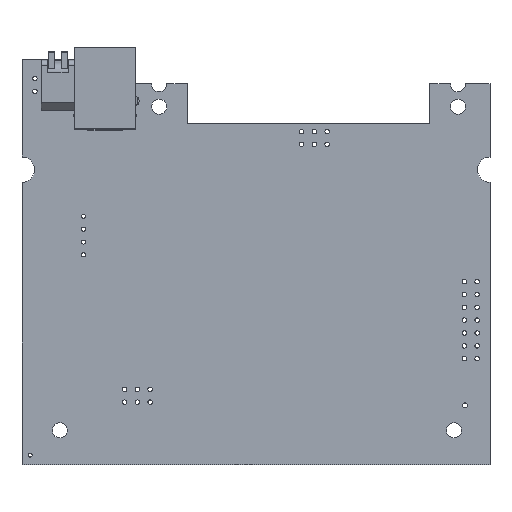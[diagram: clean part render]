
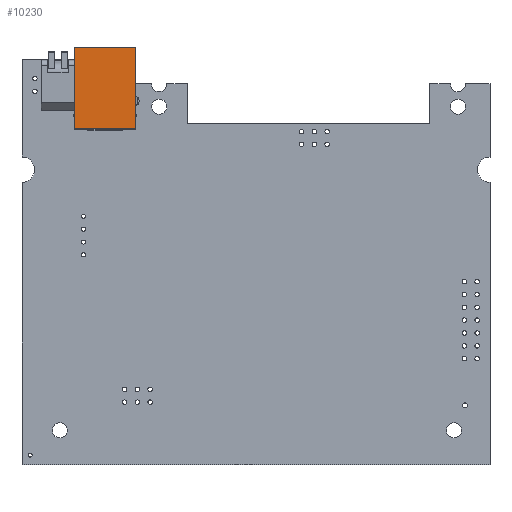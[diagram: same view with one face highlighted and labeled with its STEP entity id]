
A CAD part, top view. The second image highlights one B-rep face of the part: STEP entity #10230.
In plain terms, the highlighted planar face has unit normal (0, 0, 1) as drawn and (0, 1, 0) by its records, which use the part's own axes.
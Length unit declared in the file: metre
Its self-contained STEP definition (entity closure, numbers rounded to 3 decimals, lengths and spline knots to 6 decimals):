
#647 = EDGE_CURVE ( 'NONE', #14422, #5870, #9481, .T. ) ;
#956 = EDGE_LOOP ( 'NONE', ( #12880, #9645, #8311, #8862 ) ) ;
#2672 = CARTESIAN_POINT ( 'NONE',  ( 0.00605, 0.0107, 0.0081 ) ) ;
#2727 = EDGE_CURVE ( 'NONE', #16680, #14422, #10509, .T. ) ;
#3159 = CARTESIAN_POINT ( 'NONE',  ( 0.00605, 0.0107, -0.0081 ) ) ;
#3439 = VERTEX_POINT ( 'NONE', #8285 ) ;
#4072 = DIRECTION ( 'NONE',  ( 0., 0., -1. ) ) ;
#4451 = DIRECTION ( 'NONE',  ( -1., 0., 0. ) ) ;
#4714 = VECTOR ( 'NONE', #16239, 1. ) ;
#5115 = EDGE_CURVE ( 'NONE', #16680, #3439, #12598, .T. ) ;
#5754 = CARTESIAN_POINT ( 'NONE',  ( -0.00605, 0.0107, 0.0081 ) ) ;
#5870 = VERTEX_POINT ( 'NONE', #17080 ) ;
#6633 = CARTESIAN_POINT ( 'NONE',  ( 0.00605, 0.0107, -0.0081 ) ) ;
#8285 = CARTESIAN_POINT ( 'NONE',  ( -0.00605, 0.0107, 0.0081 ) ) ;
#8311 = ORIENTED_EDGE ( 'NONE', *, *, #5115, .F. ) ;
#8862 = ORIENTED_EDGE ( 'NONE', *, *, #2727, .T. ) ;
#9382 = FACE_OUTER_BOUND ( 'NONE', #956, .T. ) ;
#9481 = LINE ( 'NONE', #3159, #4714 ) ;
#9488 = PLANE ( 'NONE',  #13938 ) ;
#9645 = ORIENTED_EDGE ( 'NONE', *, *, #10004, .F. ) ;
#10004 = EDGE_CURVE ( 'NONE', #3439, #5870, #12075, .T. ) ;
#10230 = ADVANCED_FACE ( 'NONE', ( #9382 ), #9488, .F. ) ;
#10509 = LINE ( 'NONE', #2672, #13626 ) ;
#11096 = CARTESIAN_POINT ( 'NONE',  ( 0.00605, 0.0107, 0.0081 ) ) ;
#11623 = DIRECTION ( 'NONE',  ( 0., 0., -1. ) ) ;
#12075 = LINE ( 'NONE', #5754, #17370 ) ;
#12290 = DIRECTION ( 'NONE',  ( 0., 0., -1. ) ) ;
#12598 = LINE ( 'NONE', #21196, #20439 ) ;
#12880 = ORIENTED_EDGE ( 'NONE', *, *, #647, .T. ) ;
#13626 = VECTOR ( 'NONE', #4072, 1. ) ;
#13938 = AXIS2_PLACEMENT_3D ( 'NONE', #11096, #16038, #11623 ) ;
#14422 = VERTEX_POINT ( 'NONE', #6633 ) ;
#14748 = CARTESIAN_POINT ( 'NONE',  ( 0.00605, 0.0107, 0.0081 ) ) ;
#16038 = DIRECTION ( 'NONE',  ( 0., -1., 0. ) ) ;
#16239 = DIRECTION ( 'NONE',  ( -1., 0., 0. ) ) ;
#16680 = VERTEX_POINT ( 'NONE', #14748 ) ;
#17080 = CARTESIAN_POINT ( 'NONE',  ( -0.00605, 0.0107, -0.0081 ) ) ;
#17370 = VECTOR ( 'NONE', #12290, 1. ) ;
#20439 = VECTOR ( 'NONE', #4451, 1. ) ;
#21196 = CARTESIAN_POINT ( 'NONE',  ( 0.00605, 0.0107, 0.0081 ) ) ;
